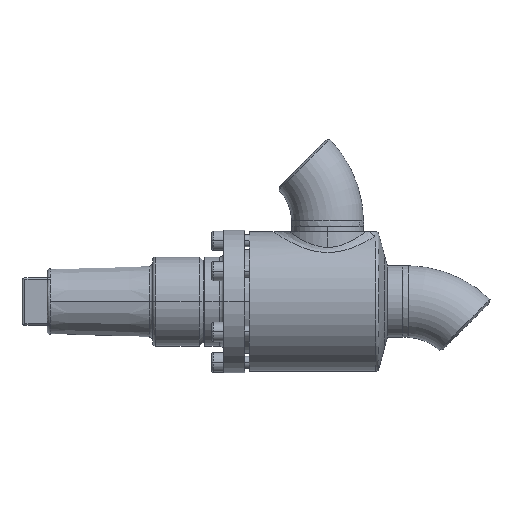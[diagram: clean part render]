
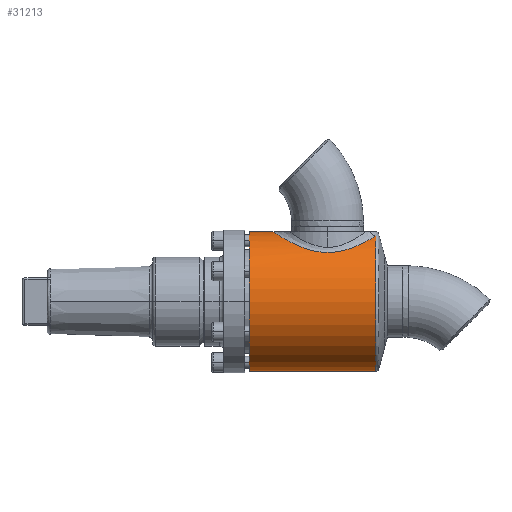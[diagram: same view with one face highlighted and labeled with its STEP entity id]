
A CAD part, left-side view. The second image highlights one B-rep face of the part: STEP entity #31213.
In plain terms, the highlighted cylindrical face has radius 47 mm (diameter 94 mm), a partial arc.
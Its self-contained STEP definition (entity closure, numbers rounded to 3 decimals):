
#20003 = B_SPLINE_CURVE_WITH_KNOTS ( 'NONE', 3,
 ( #20004, #20005, #20006, #20007, #20008, #20009, #20027, #20028, #20029, #20030, #20031, #20032, #20033, #20034, #20035, #20036, #20037, #20038, #20039, #20040, #20041, #20042, #20061, #20062, #20063, #20064, #20065, #20066, #20067, #20068, #20069, #20070, #20071, #20072, #20073, #20074, #20075, #20076, #20096, #20097, #20098, #20099, #20100, #20101, #20102, #20103, #20104, #20105, #20106, #20107, #20108, #20109, #20110, #20111, #20129, #20130, #20131, #20132, #20133, #20134, #20135, #20136 ),
 .UNSPECIFIED., .F., .F.,
 ( 4, 2, 2, 2, 2, 2, 2, 2, 2, 2, 2, 2, 2, 2, 2, 2, 2, 2, 2, 2, 2, 2, 2, 2, 2, 2, 2, 2, 2, 2, 4 ),
 ( 0.017, 0.023, 0.026, 0.029, 0.035, 0.039, 0.04, 0.042, 0.048, 0.051, 0.052, 0.054, 0.06, 0.063, 0.066, 0.069, 0.072, 0.078, 0.081, 0.083, 0.084, 0.09, 0.093, 0.095, 0.096, 0.103, 0.106, 0.107, 0.109, 0.112, 0.115 ),
 .UNSPECIFIED. ) ;
#20004 = CARTESIAN_POINT ( 'NONE',  ( -16.073, -85.446, 44.166 ) ) ;
#20005 = CARTESIAN_POINT ( 'NONE',  ( -17.749, -84.43, 43.556 ) ) ;
#20006 = CARTESIAN_POINT ( 'NONE',  ( -19.293, -83.29, 42.887 ) ) ;
#20007 = CARTESIAN_POINT ( 'NONE',  ( -21.444, -81.41, 41.831 ) ) ;
#20008 = CARTESIAN_POINT ( 'NONE',  ( -22.133, -80.755, 41.469 ) ) ;
#20009 = CARTESIAN_POINT ( 'NONE',  ( -23.459, -79.389, 40.734 ) ) ;
#20027 = CARTESIAN_POINT ( 'NONE',  ( -24.096, -78.676, 40.359 ) ) ;
#20028 = CARTESIAN_POINT ( 'NONE',  ( -25.907, -76.48, 39.24 ) ) ;
#20029 = CARTESIAN_POINT ( 'NONE',  ( -26.989, -74.936, 38.497 ) ) ;
#20030 = CARTESIAN_POINT ( 'NONE',  ( -28.44, -72.491, 37.424 ) ) ;
#20031 = CARTESIAN_POINT ( 'NONE',  ( -28.894, -71.655, 37.073 ) ) ;
#20032 = CARTESIAN_POINT ( 'NONE',  ( -29.533, -70.366, 36.563 ) ) ;
#20033 = CARTESIAN_POINT ( 'NONE',  ( -29.739, -69.93, 36.396 ) ) ;
#20034 = CARTESIAN_POINT ( 'NONE',  ( -30.137, -69.047, 36.067 ) ) ;
#20035 = CARTESIAN_POINT ( 'NONE',  ( -30.328, -68.599, 35.906 ) ) ;
#20036 = CARTESIAN_POINT ( 'NONE',  ( -31.243, -66.344, 35.126 ) ) ;
#20037 = CARTESIAN_POINT ( 'NONE',  ( -31.842, -64.482, 34.576 ) ) ;
#20038 = CARTESIAN_POINT ( 'NONE',  ( -32.541, -61.591, 33.914 ) ) ;
#20039 = CARTESIAN_POINT ( 'NONE',  ( -32.74, -60.61, 33.721 ) ) ;
#20040 = CARTESIAN_POINT ( 'NONE',  ( -32.986, -59.111, 33.48 ) ) ;
#20041 = CARTESIAN_POINT ( 'NONE',  ( -33.059, -58.608, 33.408 ) ) ;
#20042 = CARTESIAN_POINT ( 'NONE',  ( -33.186, -57.603, 33.282 ) ) ;
#20061 = CARTESIAN_POINT ( 'NONE',  ( -33.239, -57.1, 33.229 ) ) ;
#20062 = CARTESIAN_POINT ( 'NONE',  ( -33.462, -54.583, 33.006 ) ) ;
#20063 = CARTESIAN_POINT ( 'NONE',  ( -33.49, -52.562, 32.976 ) ) ;
#20064 = CARTESIAN_POINT ( 'NONE',  ( -33.307, -49.52, 33.161 ) ) ;
#20065 = CARTESIAN_POINT ( 'NONE',  ( -33.207, -48.498, 33.262 ) ) ;
#20066 = CARTESIAN_POINT ( 'NONE',  ( -32.933, -46.49, 33.532 ) ) ;
#20067 = CARTESIAN_POINT ( 'NONE',  ( -32.761, -45.501, 33.702 ) ) ;
#20068 = CARTESIAN_POINT ( 'NONE',  ( -32.346, -43.55, 34.1 ) ) ;
#20069 = CARTESIAN_POINT ( 'NONE',  ( -32.103, -42.587, 34.33 ) ) ;
#20070 = CARTESIAN_POINT ( 'NONE',  ( -31.549, -40.688, 34.839 ) ) ;
#20071 = CARTESIAN_POINT ( 'NONE',  ( -31.237, -39.749, 35.121 ) ) ;
#20072 = CARTESIAN_POINT ( 'NONE',  ( -30.211, -37.009, 36.016 ) ) ;
#20073 = CARTESIAN_POINT ( 'NONE',  ( -29.406, -35.272, 36.683 ) ) ;
#20074 = CARTESIAN_POINT ( 'NONE',  ( -28.021, -32.781, 37.738 ) ) ;
#20075 = CARTESIAN_POINT ( 'NONE',  ( -27.529, -31.97, 38.099 ) ) ;
#20076 = CARTESIAN_POINT ( 'NONE',  ( -26.744, -30.781, 38.65 ) ) ;
#20096 = CARTESIAN_POINT ( 'NONE',  ( -26.475, -30.389, 38.835 ) ) ;
#20097 = CARTESIAN_POINT ( 'NONE',  ( -25.92, -29.615, 39.208 ) ) ;
#20098 = CARTESIAN_POINT ( 'NONE',  ( -25.634, -29.233, 39.396 ) ) ;
#20099 = CARTESIAN_POINT ( 'NONE',  ( -24.175, -27.357, 40.33 ) ) ;
#20100 = CARTESIAN_POINT ( 'NONE',  ( -22.902, -25.964, 41.072 ) ) ;
#20101 = CARTESIAN_POINT ( 'NONE',  ( -20.822, -24.029, 42.143 ) ) ;
#20102 = CARTESIAN_POINT ( 'NONE',  ( -20.099, -23.411, 42.494 ) ) ;
#20103 = CARTESIAN_POINT ( 'NONE',  ( -18.969, -22.523, 43.004 ) ) ;
#20104 = CARTESIAN_POINT ( 'NONE',  ( -18.584, -22.235, 43.172 ) ) ;
#20105 = CARTESIAN_POINT ( 'NONE',  ( -17.798, -21.671, 43.502 ) ) ;
#20106 = CARTESIAN_POINT ( 'NONE',  ( -17.396, -21.396, 43.664 ) ) ;
#20107 = CARTESIAN_POINT ( 'NONE',  ( -15.356, -20.064, 44.455 ) ) ;
#20108 = CARTESIAN_POINT ( 'NONE',  ( -13.635, -19.147, 45.018 ) ) ;
#20109 = CARTESIAN_POINT ( 'NONE',  ( -10.906, -18.006, 45.727 ) ) ;
#20110 = CARTESIAN_POINT ( 'NONE',  ( -9.972, -17.666, 45.94 ) ) ;
#20111 = CARTESIAN_POINT ( 'NONE',  ( -8.53, -17.219, 46.222 ) ) ;
#20129 = CARTESIAN_POINT ( 'NONE',  ( -8.041, -17.081, 46.31 ) ) ;
#20130 = CARTESIAN_POINT ( 'NONE',  ( -7.058, -16.829, 46.47 ) ) ;
#20131 = CARTESIAN_POINT ( 'NONE',  ( -6.563, -16.715, 46.542 ) ) ;
#20132 = CARTESIAN_POINT ( 'NONE',  ( -5.066, -16.41, 46.737 ) ) ;
#20133 = CARTESIAN_POINT ( 'NONE',  ( -4.049, -16.255, 46.836 ) ) ;
#20134 = CARTESIAN_POINT ( 'NONE',  ( -2.024, -16.051, 46.967 ) ) ;
#20135 = CARTESIAN_POINT ( 'NONE',  ( -1.011, -16., 47. ) ) ;
#20136 = CARTESIAN_POINT ( 'NONE',  ( 0., -16., 47. ) ) ;
#22162 = EDGE_CURVE ( 'NONE', #7224, #9971, #20003, .T. ) ;
#6075 = CARTESIAN_POINT ( 'NONE',  ( -16.073, -85.446, 44.166 ) ) ;
#6076 = CIRCLE ( 'NONE', #6077, 47. ) ;
#6077 = AXIS2_PLACEMENT_3D ( 'NONE', #6078, #6079, #6080 ) ;
#6078 = CARTESIAN_POINT ( 'NONE',  ( 0., 0., 0. ) ) ;
#6079 = DIRECTION ( 'NONE',  ( 0., 1., 0. ) ) ;
#6080 = DIRECTION ( 'NONE',  ( 0., 0., 1. ) ) ;
#6394 = CARTESIAN_POINT ( 'NONE',  ( 0., -85.446, -47. ) ) ;
#7224 = VERTEX_POINT ( 'NONE', #6075 ) ;
#7225 = EDGE_CURVE ( 'NONE', #31448, #12010, #6076, .T. ) ;
#7903 = ORIENTED_EDGE ( 'NONE', *, *, #7225, .F. ) ;
#24848 = VERTEX_POINT ( 'NONE', #6394 ) ;
#8855 = ORIENTED_EDGE ( 'NONE', *, *, #10377, .T. ) ;
#9803 = ORIENTED_EDGE ( 'NONE', *, *, #22162, .T. ) ;
#9971 = VERTEX_POINT ( 'NONE', #26932 ) ;
#10377 = EDGE_CURVE ( 'NONE', #9971, #12010, #27204, .T. ) ;
#26932 = CARTESIAN_POINT ( 'NONE',  ( 0., -16., 47. ) ) ;
#10755 = EDGE_CURVE ( 'NONE', #24848, #7224, #27505, .T. ) ;
#27204 = LINE ( 'NONE', #27205, #27206 ) ;
#27205 = CARTESIAN_POINT ( 'NONE',  ( 0., -91., 47. ) ) ;
#27206 = VECTOR ( 'NONE', #27207, 1000. ) ;
#27207 = DIRECTION ( 'NONE',  ( 0., 1., 0. ) ) ;
#27505 = CIRCLE ( 'NONE', #27506, 47. ) ;
#27506 = AXIS2_PLACEMENT_3D ( 'NONE', #27507, #27508, #27509 ) ;
#27507 = CARTESIAN_POINT ( 'NONE',  ( 0., -85.446, 0. ) ) ;
#27508 = DIRECTION ( 'NONE',  ( 0., 1., 0. ) ) ;
#27509 = DIRECTION ( 'NONE',  ( 0., 0., -1. ) ) ;
#11431 = ORIENTED_EDGE ( 'NONE', *, *, #10755, .T. ) ;
#12010 = VERTEX_POINT ( 'NONE', #28598 ) ;
#28598 = CARTESIAN_POINT ( 'NONE',  ( 0., 0., 47. ) ) ;
#12382 = ORIENTED_EDGE ( 'NONE', *, *, #31856, .F. ) ;
#29303 = FACE_OUTER_BOUND ( 'NONE', #30769, .T. ) ;
#29304 = CYLINDRICAL_SURFACE ( 'NONE', #29323, 47. ) ;
#29323 = AXIS2_PLACEMENT_3D ( 'NONE', #29324, #29325, #29326 ) ;
#29324 = CARTESIAN_POINT ( 'NONE',  ( 0., -91., 0. ) ) ;
#29325 = DIRECTION ( 'NONE',  ( 0., 1., 0. ) ) ;
#29326 = DIRECTION ( 'NONE',  ( 0., 0., 1. ) ) ;
#29602 = CARTESIAN_POINT ( 'NONE',  ( 0., 0., -47. ) ) ;
#30136 = LINE ( 'NONE', #30137, #30138 ) ;
#30137 = CARTESIAN_POINT ( 'NONE',  ( 0., -91., -47. ) ) ;
#30138 = VECTOR ( 'NONE', #30139, 1000. ) ;
#30139 = DIRECTION ( 'NONE',  ( 0., 1., 0. ) ) ;
#30769 = EDGE_LOOP ( 'NONE', ( #12382, #11431, #9803, #8855, #7903 ) ) ;
#31213 = ADVANCED_FACE ( 'NONE', ( #29303 ), #29304, .T. ) ;
#31448 = VERTEX_POINT ( 'NONE', #29602 ) ;
#31856 = EDGE_CURVE ( 'NONE', #24848, #31448, #30136, .T. ) ;
